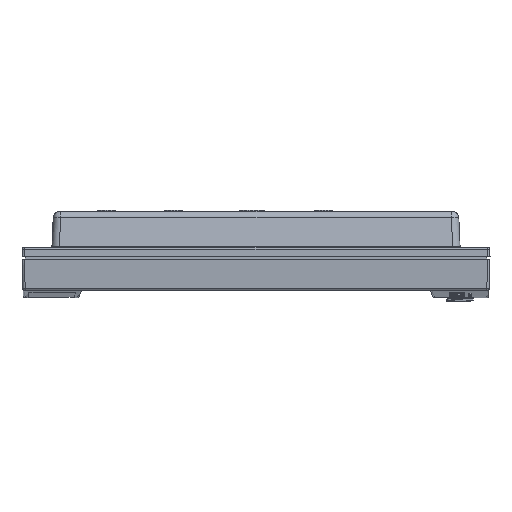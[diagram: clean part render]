
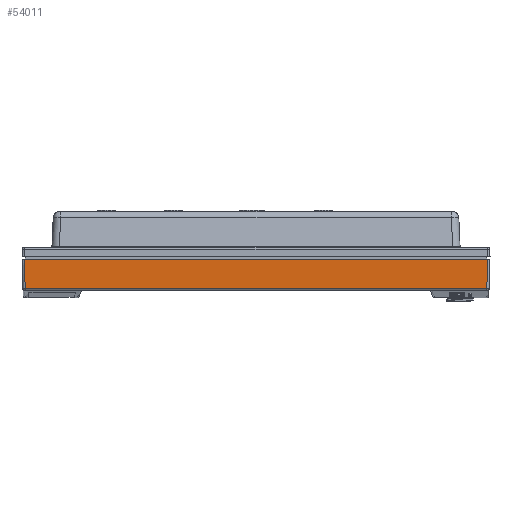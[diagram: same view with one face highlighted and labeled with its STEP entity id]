
A CAD part, left-side view. The second image highlights one B-rep face of the part: STEP entity #54011.
In plain terms, the highlighted planar face has unit normal (-1, 0, -0.03).
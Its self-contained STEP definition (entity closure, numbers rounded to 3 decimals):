
#2670 = EDGE_CURVE ( 'NONE', #6646, #32492, #13187, .T. ) ;
#4217 = CARTESIAN_POINT ( 'NONE',  ( -178.955, 311.456, 21. ) ) ;
#6646 = VERTEX_POINT ( 'NONE', #28173 ) ;
#7413 = CARTESIAN_POINT ( 'NONE',  ( -178.372, 0., 1.34 ) ) ;
#7892 = ORIENTED_EDGE ( 'NONE', *, *, #2670, .T. ) ;
#8070 = AXIS2_PLACEMENT_3D ( 'NONE', #57283, #62716, #30559 ) ;
#9731 = VECTOR ( 'NONE', #40555, 1000. ) ;
#10325 = VECTOR ( 'NONE', #42219, 1000. ) ;
#11224 = VECTOR ( 'NONE', #17329, 1000. ) ;
#13187 = LINE ( 'NONE', #7413, #68673 ) ;
#17329 = DIRECTION ( 'NONE',  ( 0.03, -0.03, -0.999 ) ) ;
#17353 = FACE_OUTER_BOUND ( 'NONE', #55149, .T. ) ;
#20732 = VERTEX_POINT ( 'NONE', #41198 ) ;
#28173 = CARTESIAN_POINT ( 'NONE',  ( -178.372, 310.873, 1.34 ) ) ;
#29518 = CARTESIAN_POINT ( 'NONE',  ( -178.955, 0., 21. ) ) ;
#30559 = DIRECTION ( 'NONE',  ( -0.03, 0., 1. ) ) ;
#32492 = VERTEX_POINT ( 'NONE', #50319 ) ;
#35007 = EDGE_CURVE ( 'NONE', #36196, #20732, #52605, .T. ) ;
#35759 = PLANE ( 'NONE',  #8070 ) ;
#36196 = VERTEX_POINT ( 'NONE', #4217 ) ;
#36847 = CARTESIAN_POINT ( 'NONE',  ( -179.001, 1.498, 22.544 ) ) ;
#37386 = EDGE_CURVE ( 'NONE', #32492, #20732, #53210, .T. ) ;
#40555 = DIRECTION ( 'NONE',  ( 0., -1., 0. ) ) ;
#41198 = CARTESIAN_POINT ( 'NONE',  ( -178.955, 1.544, 21. ) ) ;
#42219 = DIRECTION ( 'NONE',  ( -0.03, -0.03, 0.999 ) ) ;
#43883 = EDGE_CURVE ( 'NONE', #36196, #6646, #52463, .T. ) ;
#49524 = CARTESIAN_POINT ( 'NONE',  ( -178.726, 311.227, 13.271 ) ) ;
#50319 = CARTESIAN_POINT ( 'NONE',  ( -178.372, 2.127, 1.34 ) ) ;
#52463 = LINE ( 'NONE', #49524, #11224 ) ;
#52605 = LINE ( 'NONE', #29518, #9731 ) ;
#53210 = LINE ( 'NONE', #36847, #10325 ) ;
#54011 = ADVANCED_FACE ( 'NONE', ( #17353 ), #35759, .T. ) ;
#55149 = EDGE_LOOP ( 'NONE', ( #7892, #68937, #56334, #60663 ) ) ;
#55759 = DIRECTION ( 'NONE',  ( 0., -1., 0. ) ) ;
#56334 = ORIENTED_EDGE ( 'NONE', *, *, #35007, .F. ) ;
#57283 = CARTESIAN_POINT ( 'NONE',  ( -179., 0., 22.5 ) ) ;
#60663 = ORIENTED_EDGE ( 'NONE', *, *, #43883, .T. ) ;
#62716 = DIRECTION ( 'NONE',  ( -1., 0., -0.03 ) ) ;
#68673 = VECTOR ( 'NONE', #55759, 1000. ) ;
#68937 = ORIENTED_EDGE ( 'NONE', *, *, #37386, .T. ) ;
